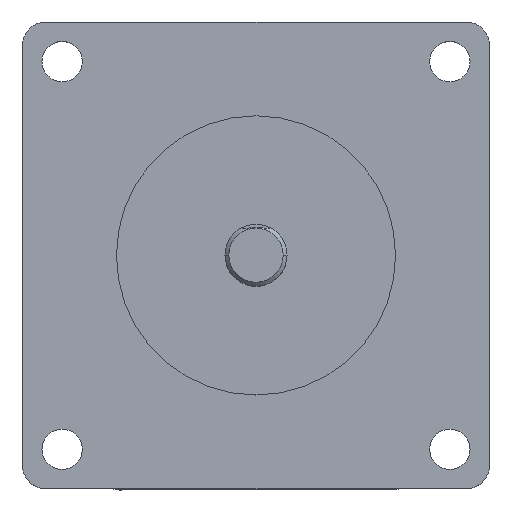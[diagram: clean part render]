
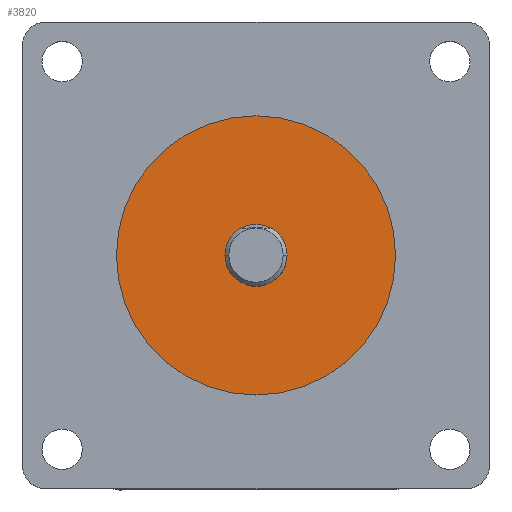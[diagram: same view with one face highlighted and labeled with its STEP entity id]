
A CAD part, top view. The second image highlights one B-rep face of the part: STEP entity #3820.
In plain terms, the highlighted planar face has unit normal (0, 0, 1).
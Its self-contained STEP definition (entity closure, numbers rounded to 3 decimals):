
#147 = EDGE_LOOP ( 'NONE', ( #2781, #3515 ) ) ;
#214 = DIRECTION ( 'NONE',  ( 0., 0., 1. ) ) ;
#287 = CARTESIAN_POINT ( 'NONE',  ( 4., 0., 74.6 ) ) ;
#406 = CARTESIAN_POINT ( 'NONE',  ( 0., 0., 74.6 ) ) ;
#411 = EDGE_CURVE ( 'NONE', #1483, #622, #2649, .T. ) ;
#424 = DIRECTION ( 'NONE',  ( 0., 0., 1. ) ) ;
#535 = EDGE_CURVE ( 'NONE', #3447, #998, #2021, .T. ) ;
#604 = DIRECTION ( 'NONE',  ( 1., 0., 0. ) ) ;
#622 = VERTEX_POINT ( 'NONE', #287 ) ;
#701 = CARTESIAN_POINT ( 'NONE',  ( 0., 0., 74.6 ) ) ;
#733 = AXIS2_PLACEMENT_3D ( 'NONE', #989, #2614, #1630 ) ;
#898 = EDGE_CURVE ( 'NONE', #998, #3447, #1479, .T. ) ;
#989 = CARTESIAN_POINT ( 'NONE',  ( 0., 0., 74.6 ) ) ;
#998 = VERTEX_POINT ( 'NONE', #1496 ) ;
#1373 = DIRECTION ( 'NONE',  ( 0., 0., 1. ) ) ;
#1479 = CIRCLE ( 'NONE', #3253, 18. ) ;
#1483 = VERTEX_POINT ( 'NONE', #2158 ) ;
#1496 = CARTESIAN_POINT ( 'NONE',  ( -18., 0., 74.6 ) ) ;
#1513 = PLANE ( 'NONE',  #2565 ) ;
#1630 = DIRECTION ( 'NONE',  ( 1., 0., 0. ) ) ;
#1830 = FACE_OUTER_BOUND ( 'NONE', #147, .T. ) ;
#1930 = AXIS2_PLACEMENT_3D ( 'NONE', #2836, #3479, #604 ) ;
#2021 = CIRCLE ( 'NONE', #3192, 18. ) ;
#2158 = CARTESIAN_POINT ( 'NONE',  ( -4., 0., 74.6 ) ) ;
#2199 = CIRCLE ( 'NONE', #1930, 4. ) ;
#2408 = EDGE_CURVE ( 'NONE', #622, #1483, #2199, .T. ) ;
#2494 = FACE_BOUND ( 'NONE', #3475, .T. ) ;
#2565 = AXIS2_PLACEMENT_3D ( 'NONE', #2819, #214, #3834 ) ;
#2614 = DIRECTION ( 'NONE',  ( 0., 0., 1. ) ) ;
#2649 = CIRCLE ( 'NONE', #733, 4. ) ;
#2781 = ORIENTED_EDGE ( 'NONE', *, *, #898, .T. ) ;
#2819 = CARTESIAN_POINT ( 'NONE',  ( 0., 0., 74.6 ) ) ;
#2836 = CARTESIAN_POINT ( 'NONE',  ( 0., 0., 74.6 ) ) ;
#3013 = DIRECTION ( 'NONE',  ( 1., 0., 0. ) ) ;
#3192 = AXIS2_PLACEMENT_3D ( 'NONE', #406, #424, #3013 ) ;
#3206 = ORIENTED_EDGE ( 'NONE', *, *, #2408, .F. ) ;
#3247 = CARTESIAN_POINT ( 'NONE',  ( 18., 0., 74.6 ) ) ;
#3253 = AXIS2_PLACEMENT_3D ( 'NONE', #701, #1373, #3322 ) ;
#3322 = DIRECTION ( 'NONE',  ( 1., 0., 0. ) ) ;
#3447 = VERTEX_POINT ( 'NONE', #3247 ) ;
#3475 = EDGE_LOOP ( 'NONE', ( #3959, #3206 ) ) ;
#3479 = DIRECTION ( 'NONE',  ( 0., 0., 1. ) ) ;
#3515 = ORIENTED_EDGE ( 'NONE', *, *, #535, .T. ) ;
#3820 = ADVANCED_FACE ( 'NONE', ( #2494, #1830 ), #1513, .T. ) ;
#3834 = DIRECTION ( 'NONE',  ( 1., 0., 0. ) ) ;
#3959 = ORIENTED_EDGE ( 'NONE', *, *, #411, .F. ) ;
